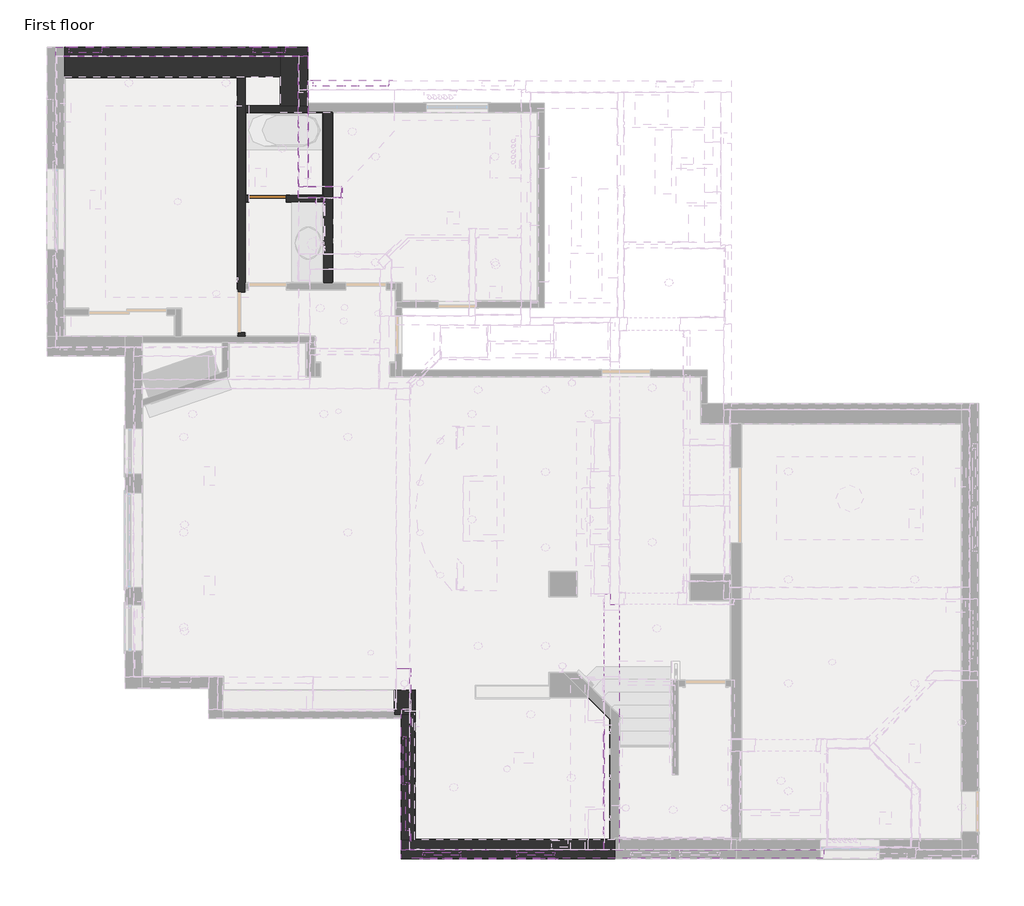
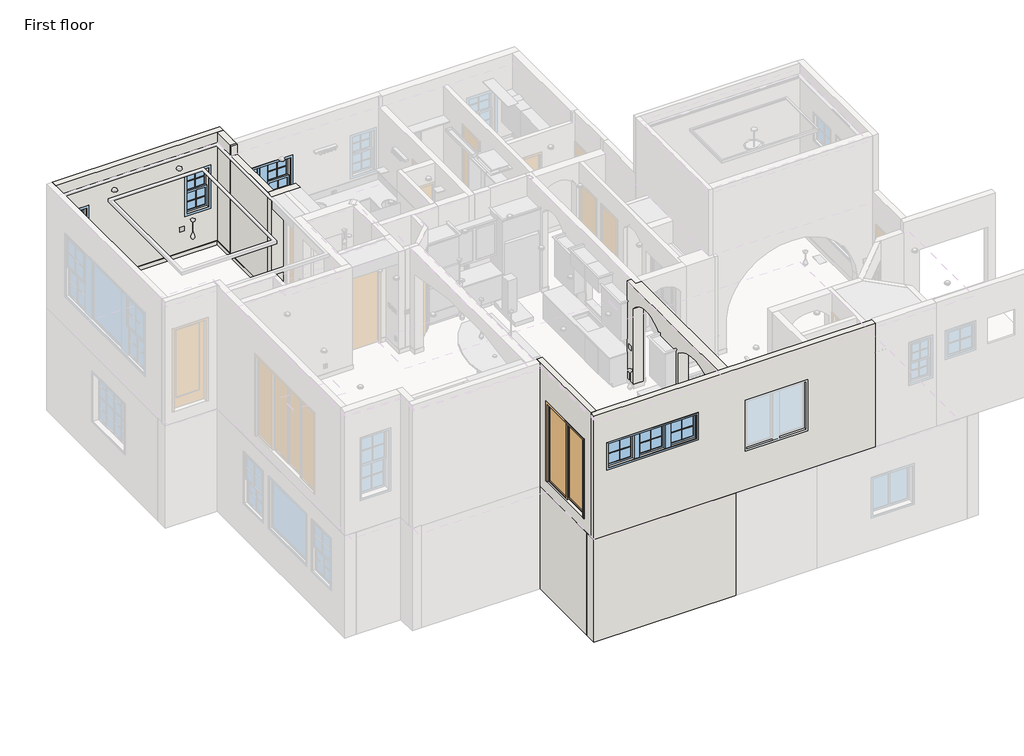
# One storey, part 3 of 14: 50 walls, 4 windows, 2 doors.
"""IFC4 building model written with IfcOpenShell, lengths in millimetres."""

from ifc_helpers import new_model, si_unit, frame, origin, origin_with_axes, place, context, project, spatial, polyline, circle_curve, outline, extrude, faceted_brep, transform, mapped, element, save
from ifc_brep_helpers import plane_surface, revolved_surface, advanced_brep
from components import door_ed5eb43b, door_e0712a00, window_ca17eceb, window_33727982, window_7b8e3ef4

model = new_model("IFC4")

# Units and contexts
model_context = context("Model", 3, world=origin())
ifc_project = project(units=[si_unit("LENGTHUNIT", "METRE", prefix="MILLI")], contexts=[model_context])

# Site, building, storey
site = spatial("IfcSite", under=ifc_project)
building = spatial("IfcBuilding", under=site)
storey = spatial("IfcBuildingStorey", under=building, Name="First floor", Elevation=0.0)

# Doors
placement = place(None, origin())
door_shape = door_ed5eb43b(model_context)
element("IfcDoor", 1, ObjectType="Door_1 : 2'-4\" X 8'-2\"", at=placement, inside=storey, context=model_context, shape_type="MappedRepresentation", body=[
    mapped(door_shape, transform((-2514.6, 12426.95, 0.0), x_axis=(-1.0, 0.0, 0.0), y_axis=(0.0, -1.0, 0.0), z_axis=(0.0, 0.0, 1.0))),
])
door_2_shape = door_e0712a00(model_context)
element("IfcDoor", 2, ObjectType="Door_8 : 5'-10\" X 7'-8\"", at=placement, inside=storey, context=model_context, shape_type="MappedRepresentation", body=[
    mapped(door_2_shape, transform((209.55, 1409.7, 3251.2), x_axis=(0.0, -1.0, 0.0), y_axis=(1.0, 0.0, 0.0), z_axis=(0.0, 0.0, 1.0))),
])

# Walls
element("IfcWall", 3, ObjectType="Wall Border_T1", at=placement, inside=storey, context=model_context, shape_type="SweptSolid", body=[
    extrude(outline(polyline([(3924.3000001, 2618.7528287), (3520.4528287, 3022.6000001), (3529.4330848, 3031.5802562), (3933.2802562, 2627.7330848), (3924.3000001, 2618.7528287)])), origin_with_axes(), (0.0, 0.0, 1.0), 127.0),
])
element("IfcWall", 4, ObjectType="Wall Border_T1", at=placement, inside=storey, context=model_context, shape_type="SweptSolid", body=[
    extrude(outline(polyline([(3924.3000001, 361.9499999), (3924.3000001, 2618.7528287), (3937.0000001, 2618.7528287), (3937.0000001, 361.9499999), (3924.3000001, 361.9499999)])), origin_with_axes(), (0.0, 0.0, 1.0), 127.0),
])
element("IfcWall", 5, ObjectType="Wall Border_T1", at=placement, inside=storey, context=model_context, shape_type="Brep", body=[
    faceted_brep([(3937.0000001, 361.9499999, 0.0), (3924.3000001, 361.9499999, 0.0), (266.7000001, 361.9499999, 0.0), (254.0000001, 361.9499999, 0.0), (254.0000001, 361.9499999, 127.0), (266.7000001, 361.9499999, 127.0), (3924.3000001, 361.9499999, 127.0), (3937.0000001, 361.9499999, 127.0), (3937.0000001, 349.2499999, 0.0), (3937.0000001, 349.2499999, 127.0), (254.0000001, 349.2499999, 127.0), (254.0000001, 349.2499999, 0.0)], [[[0, 1, 2, 3, 4, 5, 6, 7]], [[8, 9, 10, 11]], [[3, 2, 1, 0, 8, 11]], [[4, 3, 11, 10]], [[7, 6, 5, 4, 10, 9]], [[0, 7, 9, 8]]]),
])
element("IfcWall", 6, ObjectType="Wall Border_T1", at=placement, inside=storey, context=model_context, shape_type="Brep", body=[
    faceted_brep([(266.7000001, 361.9499999, 0.0), (266.7000001, 3174.9999999, 0.0), (266.7000001, 3174.9999999, 127.0), (266.7000001, 361.9499999, 127.0), (254.0000001, 361.9499999, 0.0), (254.0000001, 361.9499999, 127.0), (254.0000001, 3162.2999999, 127.0), (254.0000001, 3174.9999999, 127.0), (254.0000001, 3174.9999999, 0.0), (254.0000001, 3162.2999999, 0.0)], [[[0, 1, 2, 3]], [[4, 5, 6, 7, 8, 9]], [[1, 0, 4, 9, 8]], [[2, 1, 8, 7]], [[3, 2, 7, 6, 5]], [[0, 3, 5, 4]]]),
])
element("IfcWall", 7, ObjectType="Wall Border_T1", at=placement, inside=storey, context=model_context, shape_type="Brep", body=[
    faceted_brep([(-3086.1, 14719.3, 0.0), (-6337.3, 14719.3, 0.0), (-6337.3, 14719.3, 127.0), (-3086.1, 14719.3, 127.0), (-3086.1, 14706.6, 0.0), (-3086.1, 14706.6, 127.0), (-6324.6, 14706.6, 127.0), (-6337.3, 14706.6, 127.0), (-6337.3, 14706.6, 0.0), (-6324.6, 14706.6, 0.0)], [[[0, 1, 2, 3]], [[4, 5, 6, 7, 8, 9]], [[1, 0, 4, 9, 8]], [[3, 2, 7, 6, 5]], [[2, 1, 8, 7]], [[0, 3, 5, 4]]]),
])
element("IfcWall", 8, ObjectType="Wall Border_T1", at=placement, inside=storey, context=model_context, shape_type="Brep", body=[
    faceted_brep([(-3086.1, 14719.3, 0.0), (-3086.1, 14706.6, 0.0), (-3086.1, 10718.8, 0.0), (-3086.1, 10718.8, 127.0), (-3086.1, 14706.6, 127.0), (-3086.1, 14719.3, 127.0), (-3073.4, 14719.3, 0.0), (-3073.4, 14719.3, 127.0), (-3073.4, 10718.8, 127.0), (-3073.4, 10718.8, 0.0)], [[[0, 1, 2, 3, 4, 5]], [[6, 7, 8, 9]], [[2, 1, 0, 6, 9]], [[3, 2, 9, 8]], [[5, 4, 3, 8, 7]], [[0, 5, 7, 6]]]),
])
element("IfcWall", 9, ObjectType="Wall Border_T1", at=placement, inside=storey, context=model_context, shape_type="SweptSolid", body=[
    extrude(outline(polyline([(-1473.2, 13271.5), (-1460.5, 13271.5), (-1460.5, 12496.8), (-1473.2, 12496.8), (-1473.2, 13271.5)])), origin_with_axes(), (0.0, 0.0, 1.0), 127.0),
])
element("IfcWall", 10, ObjectType="Wall Border_T1", at=placement, inside=storey, context=model_context, shape_type="Brep", body=[
    faceted_brep([(-1460.5, 12496.8, 0.0), (-1473.2, 12496.8, 0.0), (-2108.2, 12496.8, 0.0), (-2108.2, 12496.8, 127.0), (-1473.2, 12496.8, 127.0), (-1460.5, 12496.8, 127.0), (-1460.5, 12484.1, 0.0), (-1460.5, 12484.1, 127.0), (-2108.2, 12484.1, 127.0), (-2108.2, 12484.1, 0.0)], [[[0, 1, 2, 3, 4, 5]], [[6, 7, 8, 9]], [[2, 1, 0, 6, 9]], [[3, 2, 9, 8]], [[5, 4, 3, 8, 7]], [[0, 5, 7, 6]]]),
])
element("IfcWall", 11, ObjectType="Wall Border_T1", at=placement, inside=storey, context=model_context, shape_type="SweptSolid", body=[
    extrude(outline(polyline([(-2921.0, 13271.5), (-2921.0, 12484.1), (-2933.7, 12484.1), (-2933.7, 13271.5), (-2921.0, 13271.5)])), origin_with_axes(), (0.0, 0.0, 1.0), 127.0),
])
element("IfcWall", 12, ObjectType="Wall Border_T1", at=placement, inside=storey, context=model_context, shape_type="SweptSolid", body=[
    extrude(outline(polyline([(-2025.65, 12357.1), (-2108.2, 12357.1), (-2108.2, 12369.8), (-2025.65, 12369.8), (-2025.65, 12357.1)])), origin_with_axes(), (0.0, 0.0, 1.0), 127.0),
])
element("IfcWall", 13, ObjectType="Wall Border_T1", at=placement, inside=storey, context=model_context, shape_type="Brep", body=[
    faceted_brep([(-1282.7, 10833.1, 0.0), (-1282.7, 10845.8, 0.0), (-1282.7, 14046.2, 0.0), (-1282.7, 14058.9, 0.0), (-1282.7, 14058.9, 127.0), (-1282.7, 14046.2, 127.0), (-1282.7, 10845.8, 127.0), (-1282.7, 10833.1, 127.0), (-1295.4, 10833.1, 0.0), (-1295.4, 10833.1, 127.0), (-1295.4, 14058.9, 127.0), (-1295.4, 14058.9, 0.0)], [[[0, 1, 2, 3, 4, 5, 6, 7]], [[8, 9, 10, 11]], [[3, 2, 1, 0, 8, 11]], [[4, 3, 11, 10]], [[7, 6, 5, 4, 10, 9]], [[0, 7, 9, 8]]]),
])
element("IfcWall", 14, ObjectType="Wall Border_T1", at=placement, inside=storey, context=model_context, shape_type="Brep", body=[
    faceted_brep([(-1460.5, 13271.5, 0.0), (-1460.5, 14058.9, 0.0), (-1460.5, 14058.9, 2565.4), (-1460.5, 13271.5, 2565.4), (-1473.2, 13271.5, 0.0), (-1473.2, 13271.5, 2565.4), (-1473.2, 14046.2, 2565.4), (-1473.2, 14058.9, 2565.4), (-1473.2, 14058.9, 0.0), (-1473.2, 14046.2, 0.0)], [[[0, 1, 2, 3]], [[4, 5, 6, 7, 8, 9]], [[1, 0, 4, 9, 8]], [[3, 2, 7, 6, 5]], [[0, 3, 5, 4]], [[2, 1, 8, 7]]]),
])
element("IfcWall", 15, ObjectType="Wall Border_T1", at=placement, inside=storey, context=model_context, shape_type="Brep", body=[
    faceted_brep([(-1473.2, 14058.9, 0.0), (-2933.7, 14058.9, 0.0), (-2933.7, 14058.9, 2565.4), (-1473.2, 14058.9, 2565.4), (-1473.2, 14046.2, 0.0), (-1473.2, 14046.2, 2565.4), (-2921.0, 14046.2, 2565.4), (-2933.7, 14046.2, 2565.4), (-2933.7, 14046.2, 0.0), (-2921.0, 14046.2, 0.0)], [[[0, 1, 2, 3]], [[4, 5, 6, 7, 8, 9]], [[1, 0, 4, 9, 8]], [[3, 2, 7, 6, 5]], [[0, 3, 5, 4]], [[2, 1, 8, 7]]]),
])
element("IfcWall", 16, ObjectType="Wall Border_T1", at=placement, inside=storey, context=model_context, shape_type="SweptSolid", body=[
    extrude(outline(polyline([(-2933.7, 13271.5), (-2933.7, 14046.2), (-2921.0, 14046.2), (-2921.0, 13271.5), (-2933.7, 13271.5)])), origin_with_axes(), (0.0, 0.0, 1.0), 2565.4),
])
element("IfcWall", 17, ObjectType="Wall Border_T1", at=placement, inside=storey, context=model_context, shape_type="Brep", body=[
    faceted_brep([(-1593.85, 12344.2947939, 3251.2), (-1593.85, 12445.8947939, 3251.2), (-1593.85, 12445.8947939, 3378.2), (-1593.85, 12344.2947939, 3378.2), (-1606.55, 12344.2947939, 3251.2), (-1606.55, 12344.2947939, 3378.2), (-1606.55, 12433.1947939, 3378.2), (-1606.55, 12445.8947939, 3378.2), (-1606.55, 12445.8947939, 3251.2), (-1606.55, 12433.1947939, 3251.2)], [[[0, 1, 2, 3]], [[4, 5, 6, 7, 8, 9]], [[1, 0, 4, 9, 8]], [[3, 2, 7, 6, 5]], [[0, 3, 5, 4]], [[2, 1, 8, 7]]]),
])
element("IfcWall", 18, ObjectType="Wall Border_T1", at=placement, inside=storey, context=model_context, shape_type="Brep", body=[
    faceted_brep([(-1606.55, 12445.8947939, 3251.2), (-1924.05, 12445.8947939, 3251.2), (-1936.75, 12445.8947939, 3251.2), (-1936.75, 12445.8947939, 3378.2), (-1924.05, 12445.8947939, 3378.2), (-1606.55, 12445.8947939, 3378.2), (-1606.55, 12433.1947939, 3251.2), (-1606.55, 12433.1947939, 3378.2), (-1936.75, 12433.1947939, 3378.2), (-1936.75, 12433.1947939, 3251.2)], [[[0, 1, 2, 3, 4, 5]], [[6, 7, 8, 9]], [[2, 1, 0, 6, 9]], [[5, 4, 3, 8, 7]], [[0, 5, 7, 6]], [[3, 2, 9, 8]]]),
])
element("IfcWall", 19, ObjectType="Wall Border_T1", at=placement, inside=storey, context=model_context, shape_type="Brep", body=[
    faceted_brep([(-1924.05, 12445.8947939, 3251.2), (-1924.05, 15113.0, 3251.2), (-1924.05, 15113.0, 3378.2), (-1924.05, 12445.8947939, 3378.2), (-1936.75, 12445.8947939, 3251.2), (-1936.75, 12445.8947939, 3378.2), (-1936.75, 15100.3, 3378.2), (-1936.75, 15113.0, 3378.2), (-1936.75, 15113.0, 3251.2), (-1936.75, 15100.3, 3251.2)], [[[0, 1, 2, 3]], [[4, 5, 6, 7, 8, 9]], [[1, 0, 4, 9, 8]], [[3, 2, 7, 6, 5]], [[0, 3, 5, 4]], [[2, 1, 8, 7]]]),
])
element("IfcWall", 20, ObjectType="Wall Border_T1", at=placement, inside=storey, context=model_context, shape_type="Brep", body=[
    faceted_brep([(-1936.75, 15113.0, 3251.2), (-6496.05, 15113.0, 3251.2), (-6496.05, 15113.0, 3378.2), (-1936.75, 15113.0, 3378.2), (-1936.75, 15100.3, 3251.2), (-1936.75, 15100.3, 3378.2), (-6483.35, 15100.3, 3378.2), (-6496.05, 15100.3, 3378.2), (-6496.05, 15100.3, 3251.2), (-6483.35, 15100.3, 3251.2)], [[[0, 1, 2, 3]], [[4, 5, 6, 7, 8, 9]], [[1, 0, 4, 9, 8]], [[3, 2, 7, 6, 5]], [[0, 3, 5, 4]], [[2, 1, 8, 7]]]),
])
element("IfcWall", 21, ObjectType="Wall Border_T1", at=placement, inside=storey, context=model_context, shape_type="Brep", body=[
    faceted_brep([(-1441.45, 12344.2947939, 3251.2), (-1441.45, 12433.1947939, 3251.2), (-1441.45, 12445.8947939, 3251.2), (-1441.45, 12445.8947939, 3378.2), (-1441.45, 12433.1947939, 3378.2), (-1441.45, 12344.2947939, 3378.2), (-1454.15, 12344.2947939, 3251.2), (-1454.15, 12344.2947939, 3378.2), (-1454.15, 12445.8947939, 3378.2), (-1454.15, 12445.8947939, 3251.2)], [[[0, 1, 2, 3, 4, 5]], [[6, 7, 8, 9]], [[2, 1, 0, 6, 9]], [[5, 4, 3, 8, 7]], [[0, 5, 7, 6]], [[3, 2, 9, 8]]]),
])
element("IfcWall", 22, ObjectType="Wall Border_T1", at=placement, inside=storey, context=model_context, shape_type="Brep", body=[
    faceted_brep([(-1441.45, 12433.1947939, 3251.2), (-1111.25, 12433.1947939, 3251.2), (-1111.25, 12433.1947939, 3378.2), (-1441.45, 12433.1947939, 3378.2), (-1441.45, 12445.8947939, 3251.2), (-1441.45, 12445.8947939, 3378.2), (-1123.95, 12445.8947939, 3378.2), (-1111.25, 12445.8947939, 3378.2), (-1111.25, 12445.8947939, 3251.2), (-1123.95, 12445.8947939, 3251.2)], [[[0, 1, 2, 3]], [[4, 5, 6, 7, 8, 9]], [[1, 0, 4, 9, 8]], [[3, 2, 7, 6, 5]], [[0, 3, 5, 4]], [[2, 1, 8, 7]]]),
])
element("IfcWall", 23, ObjectType="Wall Border_T1", at=placement, inside=storey, context=model_context, shape_type="SweptSolid", body=[
    extrude(outline(polyline([(-1111.25, 12445.8947939), (-1123.95, 12445.8947939), (-1123.95, 12623.6947939), (-1111.25, 12637.3654945), (-1111.25, 12445.8947939)])), frame((0.0, 0.0, 3251.2), z_axis=(0.0, 0.0, 1.0), x_axis=(1.0, 0.0, 0.0)), (0.0, 0.0, 1.0), 127.0),
])
element("IfcWall", 24, ObjectType="Wall Border_T1", at=placement, inside=storey, context=model_context, shape_type="Brep", body=[
    faceted_brep([(-1123.95, 12661.7947939, 3784.6), (-1746.25, 12661.7947939, 3784.6), (-1758.95, 12661.7947939, 3784.6), (-1758.95, 12661.7947939, 4330.7), (-1746.25, 12661.7947939, 4330.7), (-1123.95, 12661.7947939, 4330.7), (-1123.95, 12649.0947939, 3784.6), (-1123.95, 12649.0947939, 4330.7), (-1758.95, 12649.0947939, 4330.7), (-1758.95, 12649.0947939, 3784.6)], [[[0, 1, 2, 3, 4, 5]], [[6, 7, 8, 9]], [[2, 1, 0, 6, 9]], [[5, 4, 3, 8, 7]], [[0, 5, 7, 6]], [[3, 2, 9, 8]]]),
])
element("IfcWall", 25, ObjectType="Wall Border_T1", at=placement, inside=storey, context=model_context, shape_type="Brep", body=[
    faceted_brep([(-1746.25, 12661.7947939, 3784.6), (-1746.25, 14465.1947939, 3784.6), (-1746.25, 14477.8947939, 3784.6), (-1746.25, 14477.8947939, 4330.7), (-1746.25, 14465.1947939, 4330.7), (-1746.25, 12661.7947939, 4330.7), (-1758.95, 12661.7947939, 3784.6), (-1758.95, 12661.7947939, 4330.7), (-1758.95, 14477.8947939, 4330.7), (-1758.95, 14477.8947939, 3784.6)], [[[0, 1, 2, 3, 4, 5]], [[6, 7, 8, 9]], [[2, 1, 0, 6, 9]], [[5, 4, 3, 8, 7]], [[0, 5, 7, 6]], [[3, 2, 9, 8]]]),
])
element("IfcWall", 26, ObjectType="Wall Border_T1", at=placement, inside=storey, context=model_context, shape_type="SweptSolid", body=[
    extrude(outline(polyline([(-1746.25, 14477.8947939), (-127.0, 14477.8947939), (-127.0, 14465.1947939), (-1746.25, 14465.1947939), (-1746.25, 14477.8947939)])), frame((0.0, 0.0, 3784.6), z_axis=(0.0, 0.0, 1.0), x_axis=(1.0, 0.0, 0.0)), (0.0, 0.0, 1.0), 546.1),
])
element("IfcWall", 27, ObjectType="Wall Border_T1", at=placement, inside=storey, context=model_context, shape_type="Brep", body=[
    faceted_brep([(3517.9, 165.1, 4165.6), (3822.7, 165.1, 4165.6), (3822.7, 165.1, 4546.6), (3517.9, 165.1, 4546.6), (3517.9, 177.8, 4165.6), (3517.9, 177.8, 4546.6), (3810.0, 177.8, 4546.6), (3822.7, 177.8, 4546.6), (3822.7, 177.8, 4165.6), (3810.0, 177.8, 4165.6)], [[[0, 1, 2, 3]], [[4, 5, 6, 7, 8, 9]], [[1, 0, 4, 9, 8]], [[3, 2, 7, 6, 5]], [[0, 3, 5, 4]], [[2, 1, 8, 7]]]),
])
element("IfcWall", 28, ObjectType="Wall Border_T1", at=placement, inside=storey, context=model_context, shape_type="Brep", body=[
    faceted_brep([(3822.7, 177.8, 4165.6), (3822.7, 1016.0, 4165.6), (3822.7, 1016.0, 4318.0), (3822.7, 1016.0, 4343.4), (3822.7, 1016.0, 4546.6), (3822.7, 177.8, 4546.6), (3810.0, 177.8, 4165.6), (3810.0, 177.8, 4546.6), (3810.0, 1016.0, 4546.6), (3810.0, 1016.0, 4343.4), (3810.0, 1016.0, 4318.0), (3810.0, 1016.0, 4165.6)], [[[0, 1, 2, 3, 4, 5]], [[6, 7, 8, 9, 10, 11]], [[1, 0, 6, 11]], [[4, 3, 2, 1, 11, 10, 9, 8]], [[5, 4, 8, 7]], [[0, 5, 7, 6]]]),
])
element("IfcWall", 29, ObjectType="Wall Border_T1", at=placement, inside=storey, context=model_context, shape_type="SweptSolid", body=[
    extrude(outline(polyline([(3187.7, 177.8), (3517.9, 177.8), (3517.9, 165.1), (3187.7, 165.1), (3187.7, 177.8)])), frame((0.0, 0.0, 4165.6), z_axis=(0.0, 0.0, 1.0), x_axis=(1.0, 0.0, 0.0)), (0.0, 0.0, 1.0), 381.0),
])
element("IfcWall", 30, ObjectType="Wall Border_T1", at=placement, inside=storey, context=model_context, shape_type="SweptSolid", body=[
    extrude(outline(polyline([(3810.0, 1016.0), (3810.0, 2489.2), (3822.7, 2489.2), (3822.7, 1016.0), (3810.0, 1016.0)])), frame((0.0, 0.0, 4165.6), z_axis=(0.0, 0.0, 1.0), x_axis=(1.0, 0.0, 0.0)), (0.0, 0.0, 1.0), 152.4),
])
element("IfcWall", 31, ObjectType="Wall Border_T1", at=placement, inside=storey, context=model_context, shape_type="Brep", body=[
    faceted_brep([(3086.1, 177.8, 3251.2), (177.8, 177.8, 3251.2), (165.1, 177.8, 3251.2), (165.1, 177.8, 3378.2), (177.8, 177.8, 3378.2), (3086.1, 177.8, 3378.2), (3086.1, 177.8, 3352.8), (3086.1, 165.1, 3251.2), (3086.1, 165.1, 3352.8), (3086.1, 165.1, 3378.2), (165.1, 165.1, 3378.2), (165.1, 165.1, 3251.2)], [[[0, 1, 2, 3, 4, 5, 6]], [[7, 8, 9, 10, 11]], [[2, 1, 0, 7, 11]], [[5, 4, 3, 10, 9]], [[0, 6, 5, 9, 8, 7]], [[3, 2, 11, 10]]]),
])
element("IfcWall", 32, ObjectType="Wall Border_T1", at=placement, inside=storey, context=model_context, shape_type="SweptSolid", body=[
    extrude(outline(polyline([(3295.65, 165.1), (3086.1, 165.1), (3086.1, 177.8), (3295.65, 177.8), (3295.65, 165.1)])), frame((0.0, 0.0, 3251.2), z_axis=(0.0, 0.0, 1.0), x_axis=(1.0, 0.0, 0.0)), (0.0, 0.0, 1.0), 101.6),
])
element("IfcWall", 33, ObjectType="Wall Border_T1", at=placement, inside=storey, context=model_context, shape_type="SweptSolid", body=[
    extrude(outline(polyline([(165.1, 177.8), (165.1, 469.9), (177.8, 469.9), (177.8, 177.8), (165.1, 177.8)])), frame((0.0, 0.0, 3251.2), z_axis=(0.0, 0.0, 1.0), x_axis=(1.0, 0.0, 0.0)), (0.0, 0.0, 1.0), 127.0),
])
element("IfcWall", 34, ObjectType="Wall Border_T1", at=placement, inside=storey, context=model_context, shape_type="Brep", body=[
    faceted_brep([(177.8, 2349.5, 3251.2), (177.8, 3581.4, 3251.2), (177.8, 3581.4, 3378.2), (177.8, 2349.5, 3378.2), (165.1, 2349.5, 3251.2), (165.1, 2349.5, 3378.2), (165.1, 3568.7, 3378.2), (165.1, 3581.4, 3378.2), (165.1, 3581.4, 3251.2), (165.1, 3568.7, 3251.2)], [[[0, 1, 2, 3]], [[4, 5, 6, 7, 8, 9]], [[1, 0, 4, 9, 8]], [[3, 2, 7, 6, 5]], [[0, 3, 5, 4]], [[2, 1, 8, 7]]]),
])
element("IfcWall", 35, ObjectType="Wall Border_T1", at=placement, inside=storey, context=model_context, shape_type="Brep", body=[
    faceted_brep([(165.1, 3581.4, 3251.2), (-101.6, 3581.4, 3251.2), (-101.6, 3581.4, 3378.2), (165.1, 3581.4, 3378.2), (165.1, 3568.7, 3251.2), (165.1, 3568.7, 3378.2), (-88.9, 3568.7, 3378.2), (-101.6, 3568.7, 3378.2), (-101.6, 3568.7, 3251.2), (-88.9, 3568.7, 3251.2)], [[[0, 1, 2, 3]], [[4, 5, 6, 7, 8, 9]], [[1, 0, 4, 9, 8]], [[3, 2, 7, 6, 5]], [[0, 3, 5, 4]], [[2, 1, 8, 7]]]),
])
element("IfcWall", 36, ObjectType="Wall Border_T1", at=placement, inside=storey, context=model_context, shape_type="SweptSolid", body=[
    extrude(outline(polyline([(1404.813341, 3035.3000001), (1404.813341, 3238.4999999), (1417.513341, 3238.4999999), (1417.513341, 3035.3000001), (1404.813341, 3035.3000001)])), origin_with_axes(), (0.0, 0.0, 1.0), 127.0),
])
element("IfcWall", 37, ObjectType="Wall_1' 1 3/4\"", at=placement, inside=storey, context=model_context, shape_type="Brep", body=[
    faceted_brep([(4019.5496704, 349.25, 2908.3), (4019.5496704, 349.25, 2565.4), (4019.5496704, 349.25, 0.0), (4019.5496704, 349.25, -152.4), (254.0176056, 349.25, -152.4), (0.0176056, 349.25, -152.4), (0.0176056, 349.25, 2908.3), (254.0176056, 349.25, 2908.3), (4019.5496704, 0.0, -152.4), (4019.5496704, 0.0, 2908.3), (0.0176056, 0.0, 2908.3), (0.0176056, 0.0, -152.4)], [[[0, 1, 2, 3, 4, 5, 6, 7]], [[8, 9, 10, 11]], [[5, 4, 3, 8, 11]], [[0, 7, 6, 10, 9]], [[6, 5, 11, 10]], [[0, 9, 8, 3, 2, 1]]]),
])
element("IfcWall", 38, ObjectType="Wall_1' 10\"", at=placement, inside=storey, context=model_context, shape_type="SweptSolid", body=[
    extrude(outline(polyline([(-6337.3, 15278.1), (-2279.65, 15278.1), (-2279.65, 14719.3), (-6337.3, 14719.3), (-6337.3, 15278.1)])), frame((0.0, 0.0, -152.4), z_axis=(0.0, 0.0, 1.0), x_axis=(1.0, 0.0, 0.0)), (0.0, 0.0, 1.0), 3060.7),
])
element("IfcWall", 39, ObjectType="Wall_1' 8 1/2\"", at=placement, inside=storey, context=model_context, shape_type="Brep", body=[
    faceted_brep([(-2279.65, 15278.1, -152.4), (-2279.65, 14719.3, -152.4), (-2279.65, 14058.9, -152.4), (-2279.65, 14058.9, 0.0), (-2279.65, 14173.2, 0.0), (-2279.65, 14173.2, 2565.4), (-2279.65, 14058.9, 2565.4), (-2279.65, 14058.9, 2908.3), (-2279.65, 14719.3, 2908.3), (-2279.65, 15278.1, 2908.3), (-1758.95, 15278.1, -152.4), (-1758.95, 15278.1, 2908.3), (-1758.95, 14224.0, 2908.3), (-1758.95, 14058.9, 2908.3), (-1758.95, 14058.9, 2565.4), (-1758.95, 14173.2, 2565.4), (-1758.95, 14173.2, 0.0), (-1758.95, 14058.9, 0.0), (-1758.95, 14058.9, -152.4), (-1758.95, 14224.0, -152.4)], [[[0, 1, 2, 3, 4, 5, 6, 7, 8, 9]], [[10, 11, 12, 13, 14, 15, 16, 17, 18, 19]], [[2, 1, 0, 10, 19, 18]], [[9, 8, 7, 13, 12, 11]], [[0, 9, 11, 10]], [[16, 4, 3, 17]], [[3, 2, 18, 17]], [[14, 6, 5, 15]], [[5, 4, 16, 15]], [[7, 6, 14, 13]]]),
])
element("IfcWall", 40, ObjectType="Wall_1'3\"", at=placement, inside=storey, context=model_context, shape_type="Brep", body=[
    faceted_brep([(-127.0, 2705.1, -152.4), (-127.0, 2705.1, 2908.3), (-127.0, 2768.6, 2908.3), (-127.0, 2768.6, 2565.4), (-127.0, 3162.3, 2565.4), (-127.0, 3162.3, 762.0), (-127.0, 3162.3, 0.0), (-127.0, 2768.6, 0.0), (-127.0, 2768.6, -152.4), (254.0, 2705.1, 0.0), (254.0, 2705.1, -152.4), (254.0, 2768.6, -152.4), (254.0, 2768.6, 0.0), (254.0, 3162.3, 0.0), (254.0, 3162.3, 2565.4), (254.0, 2768.6, 2565.4), (254.0, 2768.6, 2908.3), (254.0, 2705.1, 2908.3), (254.0, 2705.1, 2565.4), (0.0176056, 2705.1, -152.4), (0.0176056, 2705.1, 2908.3)], [[[0, 1, 2, 3, 4, 5, 6, 7, 8]], [[9, 10, 11, 12, 13, 14, 15, 16, 17, 18]], [[10, 19, 0, 8, 11]], [[1, 0, 19, 10, 9, 18, 17, 20]], [[1, 20, 17, 16, 2]], [[13, 6, 5, 4, 14]], [[12, 7, 6, 13]], [[7, 12, 11, 8]], [[3, 15, 14, 4]], [[15, 3, 2, 16]]]),
])
element("IfcWall", 41, ObjectType="Wall_10\"", at=placement, inside=storey, context=model_context, shape_type="Brep", body=[
    faceted_brep([(254.0176056, 349.25, -152.4), (254.0176056, 2705.1, -152.4), (254.0176056, 2705.1, 2908.3), (254.0176056, 349.25, 2908.3), (0.0176056, 349.25, -152.4), (0.0176056, 349.25, 2908.3), (0.0176056, 2641.6, 2908.3), (0.0176056, 2705.1, 2908.3), (0.0176056, 2705.1, -152.4), (0.0176056, 2641.6, -152.4)], [[[0, 1, 2, 3]], [[4, 5, 6, 7, 8, 9]], [[1, 0, 4, 9, 8]], [[2, 1, 8, 7]], [[3, 2, 7, 6, 5]], [[0, 3, 5, 4]]]),
])
element("IfcWall", 42, ObjectType="Wall_11\"", at=placement, inside=storey, context=model_context, shape_type="AdvancedBrep", body=[
    advanced_brep(
    [(3822.7, 165.1, 6299.2), (3822.7, 4984.6447939, 6299.2), (3822.7, 4984.6447939, 3251.2), (3822.7, 4686.1947939, 3251.2), (3822.7, 4686.1947939, 5638.8), (3822.7, 3416.1947939, 5638.8), (3822.7, 3416.1947939, 3251.2), (3822.7, 165.1, 3251.2), (3822.7, 990.6, 4318.0), (3822.7, 1016.0, 4318.0), (3822.7, 2489.2, 4318.0), (3822.7, 2514.6, 4318.0), (3822.7, 2514.6, 4343.4), (3822.7, 2489.2, 4343.4), (3822.7, 2489.2, 5638.8), (3822.7, 1016.0, 5638.8), (3822.7, 1016.0, 4343.4), (3822.7, 990.6, 4343.4), (4102.1, 165.1, 6299.2), (4102.1, 165.1, 3251.2), (4102.1, 3416.1947939, 3251.2), (4102.1, 3416.1947939, 5638.8), (4102.1, 4686.1947939, 5638.8), (4102.1, 4686.1947939, 3251.2), (4102.1, 4781.55, 3251.2), (4102.1, 4781.55, 6299.2), (4102.1, 2514.6, 4318.0), (4102.1, 990.6, 4318.0), (4102.1, 990.6, 4343.4), (4102.1, 1016.0, 4343.4), (4102.1, 1016.0, 5638.8), (4102.1, 2489.2, 5638.8), (4102.1, 2489.2, 4343.4), (4102.1, 2514.6, 4343.4), (3937.0, 4984.6447939, 3251.2), (3937.0, 4781.55, 3251.2), (3937.0, 4781.55, 6299.2), (3937.0, 4984.6447939, 6299.2)],
    [
        (0, 1),
        (1, 2),
        (2, 3),
        (3, 4),
        (4, 5, circle_curve(frame((3822.7, 4051.1947939, 5129.7416667), z_axis=(1.0, 0.0, 0.0), x_axis=(0.0, -1.0, 0.0)), 813.8583333)),
        (5, 6),
        (6, 7),
        (7, 0),
        (8, 9),
        (9, 10),
        (10, 11),
        (11, 12),
        (12, 13),
        (13, 14),
        (14, 15, circle_curve(frame((3822.7, 1752.6, 4807.5272727), z_axis=(1.0, 0.0, 0.0), x_axis=(0.0, -1.0, 0.0)), 1110.6727273)),
        (15, 16),
        (16, 17),
        (17, 8),
        (18, 19),
        (19, 20),
        (20, 21),
        (21, 22, circle_curve(frame((4102.1, 4051.1947939, 5129.7416667), z_axis=(-1.0, 0.0, 0.0), x_axis=(0.0, -1.0, 0.0)), 813.8583333)),
        (22, 23),
        (23, 24),
        (24, 25),
        (25, 18),
        (26, 27),
        (27, 28),
        (28, 29),
        (29, 30),
        (30, 31, circle_curve(frame((4102.1, 1752.6, 4807.5272727), z_axis=(-1.0, 0.0, 0.0), x_axis=(0.0, -1.0, 0.0)), 1110.6727273)),
        (31, 32),
        (32, 33),
        (33, 26),
        (19, 7),
        (6, 20),
        (2, 34),
        (34, 35),
        (35, 24),
        (23, 3),
        (0, 18),
        (25, 36),
        (36, 37),
        (37, 1),
        (37, 34),
        (15, 30),
        (29, 16),
        (31, 14),
        (13, 32),
        (8, 27),
        (26, 11),
        (22, 4),
        (5, 21),
        (36, 35),
        (12, 33),
        (28, 17),
    ],
    [
        plane_surface(frame((3822.7, 5003.6947939, 3251.2), z_axis=(-1.0, 0.0, 0.0), x_axis=(0.0, -1.0, 0.0))),
        plane_surface(frame((4102.1, 5003.6947939, 3251.2), z_axis=(1.0, 0.0, 0.0), x_axis=(0.0, 1.0, 0.0))),
        plane_surface(frame((3822.7, 4984.6447939, 3251.2), z_axis=(0.0, 0.0, -1.0), x_axis=(1.0, 0.0, 0.0))),
        plane_surface(frame((3822.7, 82.55, 6299.2), z_axis=(0.0, 0.0, 1.0), x_axis=(1.0, 0.0, 0.0))),
        plane_surface(frame((3822.7, 4984.6447939, 6299.2), z_axis=(0.0, 1.0, 0.0), x_axis=(1.0, 0.0, 0.0))),
        plane_surface(frame((7693.6373882, 165.1, 2908.3), z_axis=(0.0, -1.0, 0.0), x_axis=(-1.0, 0.0, 0.0))),
        plane_surface(frame((3822.7, 1016.0, 4318.0), z_axis=(0.0, 1.0, 0.0), x_axis=(1.0, 0.0, 0.0))),
        plane_surface(frame((3822.7, 2489.2, 5638.8), z_axis=(0.0, -1.0, 0.0), x_axis=(1.0, 0.0, 0.0))),
        plane_surface(frame((3822.7, 2489.2, 4318.0), z_axis=(0.0, 0.0, 1.0), x_axis=(1.0, 0.0, 0.0))),
        revolved_surface(polyline([(3822.7, 641.9272727, 4807.5272727), (4102.1, 641.9272727, 4807.5272727)]), (4102.1, 1752.6, 4807.5272727), (-1.0, 0.0, 0.0)),
        plane_surface(frame((3797.3, 4686.1947939, 5638.8), z_axis=(0.0, -1.0, 0.0), x_axis=(1.0, 0.0, 0.0))),
        plane_surface(frame((3797.3, 3416.1947939, 3251.2), z_axis=(0.0, 1.0, 0.0), x_axis=(1.0, 0.0, 0.0))),
        revolved_surface(polyline([(3822.7, 3237.3364606, 5129.7416667), (4102.1, 3237.3364606, 5129.7416667)]), (4102.1, 4051.1947939, 5129.7416667), (-1.0, 0.0, 0.0)),
        plane_surface(frame((3937.0, 9924.9447939, 3251.2), z_axis=(1.0, 0.0, 0.0), x_axis=(0.0, -1.0, 0.0))),
        plane_surface(frame((3937.0, 4781.55, 3251.2), z_axis=(0.0, 1.0, 0.0), x_axis=(1.0, 0.0, 0.0))),
        plane_surface(frame((4102.1, 2514.6, 4343.4), z_axis=(0.0, 0.0, -1.0), x_axis=(-1.0, 0.0, 0.0))),
        plane_surface(frame((4102.1, 2514.6, 4343.4), z_axis=(0.0, -1.0, 0.0), x_axis=(0.0, 0.0, -1.0))),
        plane_surface(frame((3797.3, 990.6, 4343.4), z_axis=(0.0, 1.0, 0.0), x_axis=(0.0, 0.0, -1.0))),
    ],
    [
        (0, [[1, 2, 3, 4, 5, 6, 7, 8], [9, 10, 11, 12, 13, 14, 15, 16, 17, 18]]),
        (1, [[19, 20, 21, 22, 23, 24, 25, 26], [27, 28, 29, 30, 31, 32, 33, 34]]),
        (2, [[35, -7, 36, -20]]),
        (2, [[-3, 37, 38, 39, -24, 40]]),
        (3, [[-1, 41, -26, 42, 43, 44]]),
        (4, [[-2, -44, 45, -37]]),
        (5, [[-8, -35, -19, -41]]),
        (6, [[46, -30, 47, -16]]),
        (7, [[48, -14, 49, -32]]),
        (8, [[50, -27, 51, -11, -10, -9]]),
        (9, [[-46, -15, -48, -31]]),
        (10, [[52, -4, -40, -23]]),
        (11, [[53, -21, -36, -6]]),
        (12, [[-52, -22, -53, -5]]),
        (13, [[54, -38, -45, -43]]),
        (14, [[-54, -42, -25, -39]]),
        (15, [[55, -33, -49, -13]]),
        (15, [[56, -17, -47, -29]]),
        (16, [[-55, -12, -51, -34]]),
        (17, [[-56, -28, -50, -18]]),
    ],
),
])
element("IfcWall", 43, ObjectType="Wall_4.5\"", at=placement, inside=storey, context=model_context, shape_type="SweptSolid", body=[
    extrude(outline(polyline([(0.0, -2933.7), (0.0, -2870.2), (2489.2, -2870.2), (2489.2, -2159.0), (0.0, -2159.0), (0.0, -1460.5), (2565.4, -1460.5), (2565.4, -2933.7), (0.0, -2933.7)])), frame((0.0, 12369.8, 0.0), z_axis=(0.0, 1.0, 0.0), x_axis=(0.0, 0.0, 1.0)), (0.0, 0.0, 1.0), 114.3),
])
element("IfcWall", 44, ObjectType="Wall_4.5\"", at=placement, inside=storey, context=model_context, shape_type="Brep", body=[
    faceted_brep([(-1758.95, 14173.2, 0.0), (-2279.65, 14173.2, 0.0), (-2933.7, 14173.2, 0.0), (-2933.7, 14173.2, 2565.4), (-2279.65, 14173.2, 2565.4), (-1758.95, 14173.2, 2565.4), (-1758.95, 14058.9, 0.0), (-1758.95, 14058.9, 2565.4), (-2279.65, 14058.9, 2565.4), (-2933.7, 14058.9, 2565.4), (-2933.7, 14058.9, 0.0), (-2279.65, 14058.9, 0.0)], [[[0, 1, 2, 3, 4, 5]], [[6, 7, 8, 9, 10, 11]], [[2, 1, 0, 6, 11, 10]], [[5, 4, 3, 9, 8, 7]], [[0, 5, 7, 6]], [[3, 2, 10, 9]]]),
])
element("IfcWall", 45, ObjectType="Wall_5.5\"", at=placement, inside=storey, context=model_context, shape_type="Brep", body=[
    faceted_brep([(-3073.4, 9906.0, 2489.2), (-3073.4, 9906.0, 0.0), (-3073.4, 9829.8, 0.0), (-3073.4, 9829.8, 2565.4), (-3073.4, 14719.3, 2565.4), (-3073.4, 14719.3, 0.0), (-3073.4, 10668.0, 0.0), (-3073.4, 10668.0, 2489.2), (-2933.7, 9829.8, 0.0), (-2933.7, 9906.0, 0.0), (-2933.7, 9906.0, 2489.2), (-2933.7, 10668.0, 2489.2), (-2933.7, 10668.0, 0.0), (-2933.7, 10718.8, 0.0), (-2933.7, 10833.1, 0.0), (-2933.7, 12369.8, 0.0), (-2933.7, 12484.1, 0.0), (-2933.7, 14058.9, 0.0), (-2933.7, 14173.2, 0.0), (-2933.7, 14719.3, 0.0), (-2933.7, 14719.3, 2565.4), (-2933.7, 14173.2, 2565.4), (-2933.7, 14058.9, 2565.4), (-2933.7, 12484.1, 2565.4), (-2933.7, 12369.8, 2565.4), (-2933.7, 10833.1, 2565.4), (-2933.7, 10718.8, 2565.4), (-2933.7, 9829.8, 2565.4)], [[[0, 1, 2, 3, 4, 5, 6, 7]], [[8, 9, 10, 11, 12, 13, 14, 15, 16, 17, 18, 19, 20, 21, 22, 23, 24, 25, 26, 27]], [[6, 5, 19, 18, 17, 16, 15, 14, 13, 12]], [[2, 1, 9, 8]], [[4, 3, 27, 26, 25, 24, 23, 22, 21, 20]], [[3, 2, 8, 27]], [[5, 4, 20, 19]], [[10, 9, 1, 0]], [[11, 10, 0, 7]], [[12, 11, 7, 6]]]),
])
element("IfcWall", 46, ObjectType="Wall_6.5\"", at=placement, inside=storey, context=model_context, shape_type="Brep", body=[
    faceted_brep([(7956.55, 165.1, 6604.0), (7956.55, 165.1, 6299.2), (7956.55, 165.1, 3251.2), (7956.55, 165.1, 2908.3), (165.1, 165.1, 2908.3), (0.0, 165.1, 2908.3), (0.0, 165.1, 6604.0), (165.1, 165.1, 6604.0), (5994.4, 165.1, 5537.2), (4318.0, 165.1, 5537.2), (4318.0, 165.1, 4114.8), (5994.4, 165.1, 4114.8), (2895.6, 165.1, 5638.8), (406.4, 165.1, 5638.8), (406.4, 165.1, 4927.6), (2895.6, 165.1, 4927.6), (7956.55, 0.0, 2908.3), (7956.55, 0.0, 6604.0), (0.0, 0.0, 6604.0), (0.0, 0.0, 2908.3), (5994.4, 0.0, 5537.2), (5994.4, 0.0, 4114.8), (4318.0, 0.0, 4114.8), (4318.0, 0.0, 5537.2), (2895.6, 0.0, 5638.8), (2895.6, 0.0, 4927.6), (406.4, 0.0, 4927.6), (406.4, 0.0, 5638.8)], [[[0, 1, 2, 3, 4, 5, 6, 7], [8, 9, 10, 11], [12, 13, 14, 15]], [[16, 17, 18, 19], [20, 21, 22, 23], [24, 25, 26, 27]], [[5, 4, 3, 16, 19]], [[0, 7, 6, 18, 17]], [[6, 5, 19, 18]], [[21, 20, 8, 11]], [[22, 21, 11, 10]], [[23, 22, 10, 9]], [[20, 23, 9, 8]], [[25, 24, 12, 15]], [[26, 25, 15, 14]], [[27, 26, 14, 13]], [[24, 27, 13, 12]], [[0, 17, 16, 3, 2, 1]]]),
])
element("IfcWall", 47, ObjectType="Wall_6.5\"", at=placement, inside=storey, context=model_context, shape_type="Brep", body=[
    faceted_brep([(165.1, 165.1, 2908.3), (165.1, 2806.7, 2908.3), (165.1, 2806.7, 3251.2), (165.1, 2806.7, 6299.2), (165.1, 2806.7, 6604.0), (165.1, 165.1, 6604.0), (165.1, 2298.7, 5588.0), (165.1, 2298.7, 3251.2), (165.1, 520.7, 3251.2), (165.1, 520.7, 5588.0), (0.0, 165.1, 2908.3), (0.0, 165.1, 6604.0), (0.0, 2641.6, 6604.0), (0.0, 2806.7, 6604.0), (0.0, 2806.7, 2908.3), (0.0, 2641.6, 2908.3), (0.0, 2298.7, 5588.0), (0.0, 520.7, 5588.0), (0.0, 520.7, 3251.2), (0.0, 2298.7, 3251.2)], [[[0, 1, 2, 3, 4, 5], [6, 7, 8, 9]], [[10, 11, 12, 13, 14, 15], [16, 17, 18, 19]], [[1, 0, 10, 15, 14]], [[5, 4, 13, 12, 11]], [[0, 5, 11, 10]], [[7, 6, 16, 19]], [[8, 7, 19, 18]], [[9, 8, 18, 17]], [[6, 9, 17, 16]], [[1, 14, 13, 4, 3, 2]]]),
])
element("IfcWall", 48, ObjectType="Wall_6.5\"", at=placement, inside=storey, context=model_context, shape_type="Brep", body=[
    faceted_brep([(-6496.05, 15113.0, 2908.3), (-1924.05, 15113.0, 2908.3), (-1758.95, 15113.0, 2908.3), (-1758.95, 15113.0, 6604.0), (-1924.05, 15113.0, 6604.0), (-6496.05, 15113.0, 6604.0), (-2787.65, 15113.0, 5638.8), (-2178.05, 15113.0, 5638.8), (-2178.05, 15113.0, 4470.4), (-2787.65, 15113.0, 4470.4), (-6242.05, 15113.0, 5638.8), (-5632.45, 15113.0, 5638.8), (-5632.45, 15113.0, 4470.4), (-6242.05, 15113.0, 4470.4), (-6496.05, 15278.1, 2908.3), (-6496.05, 15278.1, 6604.0), (-1758.95, 15278.1, 6604.0), (-1758.95, 15278.1, 2908.3), (-2787.65, 15278.1, 5638.8), (-2787.65, 15278.1, 4470.4), (-2178.05, 15278.1, 4470.4), (-2178.05, 15278.1, 5638.8), (-6242.05, 15278.1, 5638.8), (-6242.05, 15278.1, 4470.4), (-5632.45, 15278.1, 4470.4), (-5632.45, 15278.1, 5638.8)], [[[0, 1, 2, 3, 4, 5], [6, 7, 8, 9], [10, 11, 12, 13]], [[14, 15, 16, 17], [18, 19, 20, 21], [22, 23, 24, 25]], [[2, 1, 0, 14, 17]], [[5, 4, 3, 16, 15]], [[0, 5, 15, 14]], [[3, 2, 17, 16]], [[19, 18, 6, 9]], [[20, 19, 9, 8]], [[21, 20, 8, 7]], [[18, 21, 7, 6]], [[23, 22, 10, 13]], [[24, 23, 13, 12]], [[25, 24, 12, 11]], [[22, 25, 11, 10]]]),
])
element("IfcWall", 49, ObjectType="Wall_6.5\"", at=placement, inside=storey, context=model_context, shape_type="Brep", body=[
    faceted_brep([(-1924.05, 15113.0, 2908.3), (-1924.05, 14477.8947939, 2908.3), (-1924.05, 14477.8947939, 3251.2), (-1924.05, 14477.8947939, 6604.0), (-1924.05, 15113.0, 6604.0), (-1758.95, 15113.0, 2908.3), (-1758.95, 15113.0, 6604.0), (-1758.95, 14642.9947939, 6604.0), (-1758.95, 14477.8947939, 6604.0), (-1758.95, 14477.8947939, 3251.2), (-1758.95, 14477.8947939, 2908.3), (-1758.95, 14642.9947939, 2908.3)], [[[0, 1, 2, 3, 4]], [[5, 6, 7, 8, 9, 10, 11]], [[1, 0, 5, 11, 10]], [[4, 3, 8, 7, 6]], [[0, 4, 6, 5]], [[1, 10, 9, 8, 3, 2]]]),
])
element("IfcWall", 50, ObjectType="Wall_6.5\"", at=placement, inside=storey, context=model_context, shape_type="Brep", body=[
    faceted_brep([(-1758.95, 12649.0947939, 3251.2), (-1758.95, 14477.8947939, 3251.2), (-1758.95, 14477.8947939, 6299.2), (-1758.95, 14477.8947939, 6604.0), (-1758.95, 14427.0947939, 6604.0), (-1758.95, 14427.0947939, 6299.2), (-1758.95, 12649.0947939, 6299.2), (-1924.05, 14477.8947939, 3251.2), (-1924.05, 12649.0947939, 3251.2), (-1924.05, 12649.0947939, 6299.2), (-1924.05, 14427.0947939, 6299.2), (-1924.05, 14427.0947939, 6604.0), (-1924.05, 14477.8947939, 6604.0), (-1924.05, 14477.8947939, 6299.2)], [[[0, 1, 2, 3, 4, 5, 6]], [[7, 8, 9, 10, 11, 12, 13]], [[1, 0, 8, 7]], [[3, 12, 11, 4]], [[1, 7, 13, 12, 3, 2]], [[8, 0, 6, 9]], [[5, 10, 9, 6]], [[10, 5, 4, 11]]]),
])
element("IfcWall", 51, ObjectType="Wall_6.5\"", at=placement, inside=storey, context=model_context, shape_type="Brep", body=[
    faceted_brep([(-1295.4, 10833.1, 0.0), (-1295.4, 14058.9, 0.0), (-1295.4, 14058.9, 2565.4), (-1295.4, 10833.1, 2565.4), (-1460.5, 10833.1, 0.0), (-1460.5, 10833.1, 2565.4), (-1460.5, 12369.8, 2565.4), (-1460.5, 12484.1, 2565.4), (-1460.5, 14058.9, 2565.4), (-1460.5, 14058.9, 0.0), (-1460.5, 12484.1, 0.0), (-1460.5, 12369.8, 0.0)], [[[0, 1, 2, 3]], [[4, 5, 6, 7, 8, 9, 10, 11]], [[1, 0, 4, 11, 10, 9]], [[3, 2, 8, 7, 6, 5]], [[2, 1, 9, 8]], [[0, 3, 5, 4]]]),
])
element("IfcWall", 52, ObjectType="Wall_8\"", at=placement, inside=storey, context=model_context, shape_type="Brep", body=[
    faceted_brep([(-1123.95, 12649.0947939, 3251.2), (-1758.95, 12649.0947939, 3251.2), (-1924.05, 12649.0947939, 3251.2), (-1924.05, 12649.0947939, 6299.2), (-1758.95, 12649.0947939, 6299.2), (-1123.95, 12649.0947939, 6299.2), (-1123.95, 12445.8947939, 3251.2), (-1123.95, 12445.8947939, 3378.2), (-1123.95, 12445.8947939, 5943.6), (-1123.95, 12445.8947939, 6299.2), (-1454.15, 12445.8947939, 6299.2), (-1593.85, 12445.8947939, 6299.2), (-1924.05, 12445.8947939, 6299.2), (-1924.05, 12445.8947939, 5943.6), (-1924.05, 12445.8947939, 3251.2), (-1593.85, 12445.8947939, 3251.2), (-1454.15, 12445.8947939, 3251.2), (-1123.95, 12623.6947939, 3251.2)], [[[0, 1, 2, 3, 4, 5]], [[6, 7, 8, 9, 10, 11, 12, 13, 14, 15, 16]], [[2, 1, 0, 17, 6, 16, 15, 14]], [[5, 4, 3, 12, 11, 10, 9]], [[3, 2, 14, 13, 12]], [[0, 5, 9, 8, 7, 6, 17]]]),
])

# Windows
window_shape = window_ca17eceb(model_context)
element("IfcWindow", 53, ObjectType="Window_10 : 8'-2\" X 2'-4\"", at=placement, inside=storey, context=model_context, shape_type="MappedRepresentation", body=[
    mapped(window_shape, transform((1638.3, 82.55, 4114.8), x_axis=(1.0, 0.0, 0.0), y_axis=(0.0, 1.0, 0.0), z_axis=(0.0, 0.0, 1.0))),
])
window_2_shape = window_33727982(model_context)
element("IfcWindow", 54, ObjectType="Window_2 : 4'-8\" X 3'-10\"", at=placement, inside=storey, context=model_context, shape_type="MappedRepresentation", body=[
    mapped(window_2_shape, transform((-939.8, 14560.4447939, 3657.6), x_axis=(-1.0, 0.0, 0.0), y_axis=(0.0, -1.0, 0.0), z_axis=(0.0, 0.0, 1.0))),
])
window_3_shape = window_7b8e3ef4(model_context)
element("IfcWindow", 55, ObjectType="Window_4 : 2'-0\" X 3'-10\"", at=placement, inside=storey, context=model_context, shape_type="MappedRepresentation", body=[
    mapped(window_3_shape, transform((-2482.85, 15195.55, 3606.8), x_axis=(-1.0, 0.0, 0.0), y_axis=(0.0, -1.0, 0.0), z_axis=(0.0, 0.0, 1.0))),
])
element("IfcWindow", 56, ObjectType="Window_4 : 2'-0\" X 3'-10\"", at=placement, inside=storey, context=model_context, shape_type="MappedRepresentation", body=[
    mapped(window_3_shape, transform((-5937.25, 15195.55, 3606.8), x_axis=(-1.0, 0.0, 0.0), y_axis=(0.0, -1.0, 0.0), z_axis=(0.0, 0.0, 1.0))),
])

save(model, "model.ifc")
